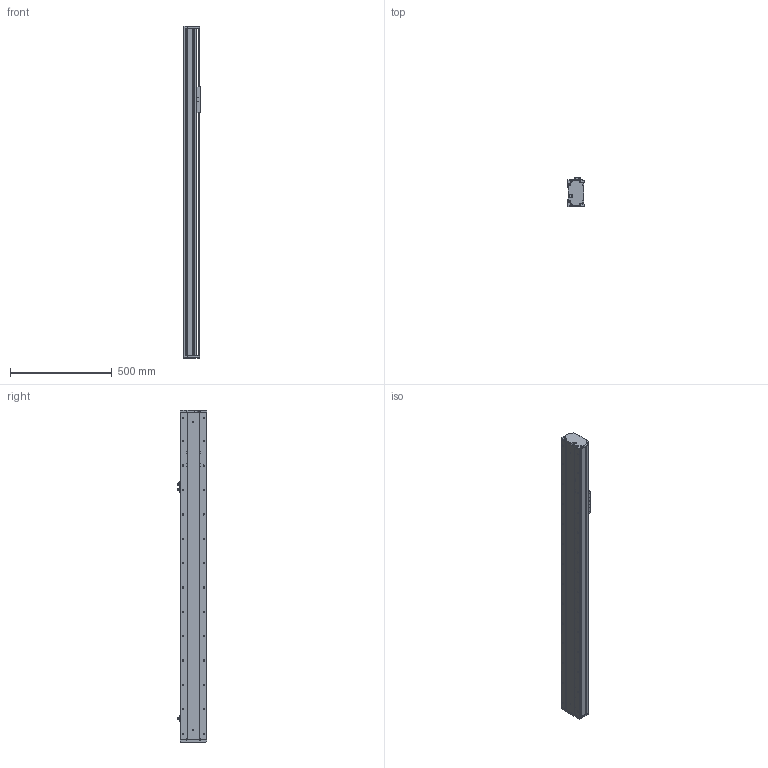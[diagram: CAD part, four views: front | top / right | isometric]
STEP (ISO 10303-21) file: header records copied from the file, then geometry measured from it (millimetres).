
FILE_DESCRIPTION (( 'STEP AP214' ), '1' );
FILE_NAME ('KSD130S-P2010-S1150-M-CM.STEP', '2019-09-10T07:22:33', ( '微软用户' ), ( '微软中国' ), 'SwSTEP 2.0', 'SolidWorks 2014', '' );
FILE_SCHEMA (( 'AUTOMOTIVE_DESIGN' ));
Length unit declared in the file: millimetre
Products named in the file (8): KSD130S-P2010-S1150-M-CM; 130宽马达安装板半封闭-内装; U倰嫖萇EEㄜSX672; 覜茼え100遵圉猾敕; 130宽盖板半封闭丝杠内装-1150行程; 130宽滚珠丝杆安装板半封闭-内装-20丝杆; 130宽端盖半封闭-内装; 130宽底板半封闭丝杠内装-1150行程
Assembly tree (9 placements, depth 2):
  KSD130S-P2010-S1150-M-CM
    130宽底板半封闭丝杠内装-1150行程
    130宽端盖半封闭-内装
    130宽滚珠丝杆安装板半封闭-内装-20丝杆
    130宽盖板半封闭丝杠内装-1150行程
    覜茼え100遵圉猾敕
    U倰嫖萇EEㄜSX672  x3
    130宽马达安装板半封闭-内装
Bounding box: 80 x 143.7 x 1635 mm (x, y, z)
Volume: 4760802.7 mm3; surface area: 1465387 mm2
Topology: 9 solids, 9 shells, 1225 faces, 3624 edges, 2288 vertices
Faces by surface type: cylinder 572, plane 467, cone 186
Entity records: 41284 total; most frequent: CARTESIAN_POINT 8261, DIRECTION 5958, ORIENTED_EDGE 5872, EDGE_CURVE 2936, AXIS2_PLACEMENT_3D 2189, VERTEX_POINT 1912, VECTOR 1580, LINE 1580
